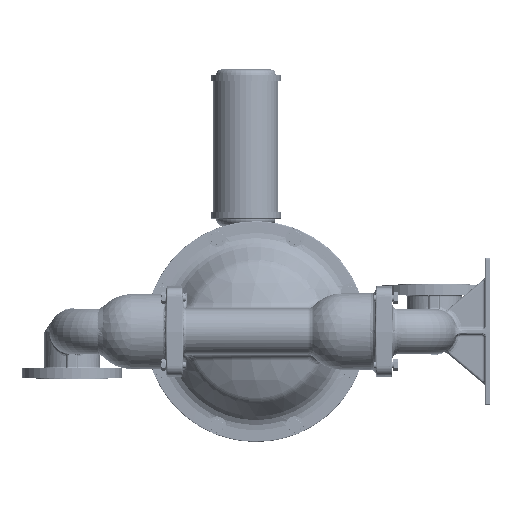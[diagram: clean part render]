
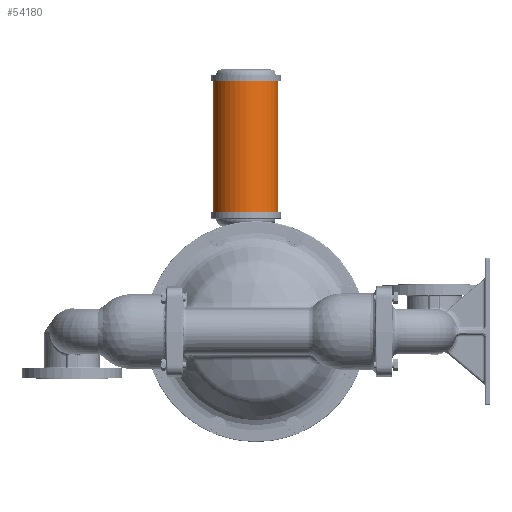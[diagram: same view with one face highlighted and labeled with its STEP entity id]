
A CAD part, left-side view. The second image highlights one B-rep face of the part: STEP entity #54180.
In plain terms, the highlighted cylindrical face has radius 61.722 mm (diameter 123.444 mm), a partial arc.
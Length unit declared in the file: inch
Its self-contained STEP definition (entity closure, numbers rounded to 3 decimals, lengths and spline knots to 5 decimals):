
#14828 = LINE ( 'NONE', #270854, #107545 ) ;
#22303 = CARTESIAN_POINT ( 'NONE',  ( 0., 3.18, 8.965 ) ) ;
#35521 = CYLINDRICAL_SURFACE ( 'NONE', #98358, 2.43 ) ;
#41853 = EDGE_CURVE ( 'NONE', #351223, #87165, #224117, .T. ) ;
#54180 = ADVANCED_FACE ( 'NONE', ( #199195 ), #35521, .T. ) ;
#73525 = LINE ( 'NONE', #22303, #461752 ) ;
#87165 = VERTEX_POINT ( 'NONE', #633082 ) ;
#95651 = EDGE_CURVE ( 'NONE', #363433, #219157, #375158, .T. ) ;
#98358 = AXIS2_PLACEMENT_3D ( 'NONE', #407451, #250394, #397397 ) ;
#102724 = AXIS2_PLACEMENT_3D ( 'NONE', #487940, #392224, #177246 ) ;
#107545 = VECTOR ( 'NONE', #584946, 39.37008 ) ;
#165851 = DIRECTION ( 'NONE',  ( 0., 0., 1. ) ) ;
#177246 = DIRECTION ( 'NONE',  ( 0., 1., 0. ) ) ;
#199195 = FACE_OUTER_BOUND ( 'NONE', #236996, .T. ) ;
#219157 = VERTEX_POINT ( 'NONE', #248240 ) ;
#224117 = CIRCLE ( 'NONE', #268039, 2.43 ) ;
#236996 = EDGE_LOOP ( 'NONE', ( #558008, #478661, #419701, #369259 ) ) ;
#248240 = CARTESIAN_POINT ( 'NONE',  ( 0., -1.68, 8.965 ) ) ;
#250394 = DIRECTION ( 'NONE',  ( 0., 0., -1. ) ) ;
#259522 = DIRECTION ( 'NONE',  ( 0., 0., 1. ) ) ;
#266324 = DIRECTION ( 'NONE',  ( 0., 1., 0. ) ) ;
#268039 = AXIS2_PLACEMENT_3D ( 'NONE', #320911, #259522, #266324 ) ;
#270854 = CARTESIAN_POINT ( 'NONE',  ( 0., -1.68, 8.965 ) ) ;
#320911 = CARTESIAN_POINT ( 'NONE',  ( 0., 0.75, 18.745 ) ) ;
#326842 = CARTESIAN_POINT ( 'NONE',  ( 0., 3.18, 18.745 ) ) ;
#351223 = VERTEX_POINT ( 'NONE', #326842 ) ;
#363433 = VERTEX_POINT ( 'NONE', #532261 ) ;
#369259 = ORIENTED_EDGE ( 'NONE', *, *, #596021, .F. ) ;
#375158 = CIRCLE ( 'NONE', #102724, 2.43 ) ;
#389778 = EDGE_CURVE ( 'NONE', #219157, #87165, #14828, .T. ) ;
#392224 = DIRECTION ( 'NONE',  ( 0., 0., 1. ) ) ;
#397397 = DIRECTION ( 'NONE',  ( 0., -1., 0. ) ) ;
#407451 = CARTESIAN_POINT ( 'NONE',  ( 0., 0.75, 20.2325 ) ) ;
#419701 = ORIENTED_EDGE ( 'NONE', *, *, #41853, .F. ) ;
#461752 = VECTOR ( 'NONE', #165851, 39.37008 ) ;
#478661 = ORIENTED_EDGE ( 'NONE', *, *, #389778, .T. ) ;
#487940 = CARTESIAN_POINT ( 'NONE',  ( 0., 0.75, 8.965 ) ) ;
#532261 = CARTESIAN_POINT ( 'NONE',  ( 0., 3.18, 8.965 ) ) ;
#558008 = ORIENTED_EDGE ( 'NONE', *, *, #95651, .T. ) ;
#584946 = DIRECTION ( 'NONE',  ( 0., 0., 1. ) ) ;
#596021 = EDGE_CURVE ( 'NONE', #363433, #351223, #73525, .T. ) ;
#633082 = CARTESIAN_POINT ( 'NONE',  ( 0., -1.68, 18.745 ) ) ;
